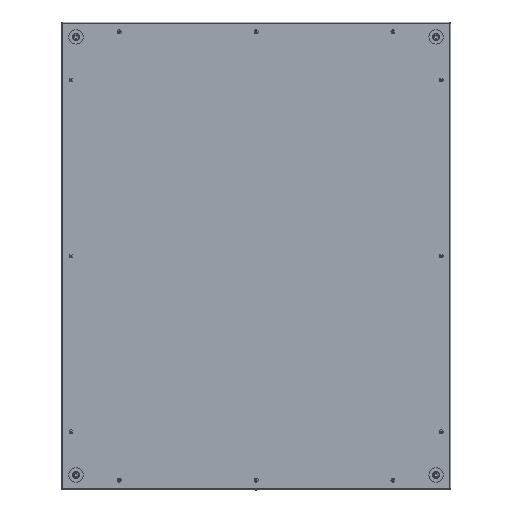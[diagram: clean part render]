
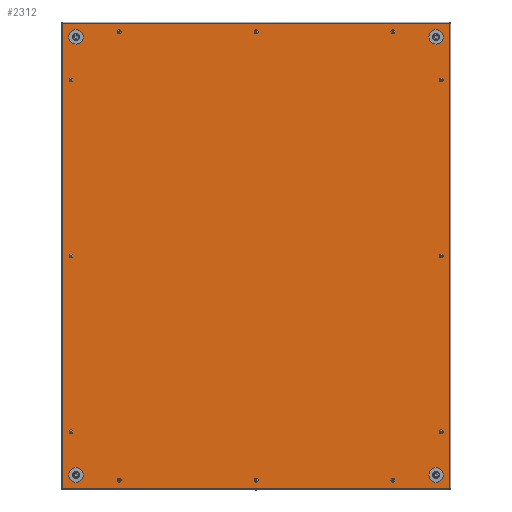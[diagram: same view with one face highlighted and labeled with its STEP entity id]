
A CAD part, top view. The second image highlights one B-rep face of the part: STEP entity #2312.
In plain terms, the highlighted planar face has unit normal (0, 0, 1).
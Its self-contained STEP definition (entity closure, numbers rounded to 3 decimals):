
#2312=ADVANCED_FACE('',(#3389,#3391,#3393,#3395,#3397,#3399,#3401,#3403,#3405,#3407,
#3409,#3411,#3413,#3415,#3417,#3419,#3421),#3423,.T.);
#3389=FACE_BOUND('',#3390,.T.);
#3390=EDGE_LOOP('',(#8882,#8883,#8884,#8885));
#3391=FACE_BOUND('',#3392,.T.);
#3392=EDGE_LOOP('',(#8886));
#3393=FACE_BOUND('',#3394,.T.);
#3394=EDGE_LOOP('',(#8887));
#3395=FACE_BOUND('',#3396,.T.);
#3396=EDGE_LOOP('',(#8888));
#3397=FACE_BOUND('',#3398,.T.);
#3398=EDGE_LOOP('',(#8889));
#3399=FACE_BOUND('',#3400,.T.);
#3400=EDGE_LOOP('',(#8890));
#3401=FACE_BOUND('',#3402,.T.);
#3402=EDGE_LOOP('',(#8891));
#3403=FACE_BOUND('',#3404,.T.);
#3404=EDGE_LOOP('',(#8892));
#3405=FACE_BOUND('',#3406,.T.);
#3406=EDGE_LOOP('',(#8893));
#3407=FACE_BOUND('',#3408,.T.);
#3408=EDGE_LOOP('',(#8894));
#3409=FACE_BOUND('',#3410,.T.);
#3410=EDGE_LOOP('',(#8895));
#3411=FACE_BOUND('',#3412,.T.);
#3412=EDGE_LOOP('',(#8896));
#3413=FACE_BOUND('',#3414,.T.);
#3414=EDGE_LOOP('',(#8897));
#3415=FACE_BOUND('',#3416,.T.);
#3416=EDGE_LOOP('',(#8898));
#3417=FACE_BOUND('',#3418,.T.);
#3418=EDGE_LOOP('',(#8899));
#3419=FACE_BOUND('',#3420,.T.);
#3420=EDGE_LOOP('',(#8900));
#3421=FACE_BOUND('',#3422,.T.);
#3422=EDGE_LOOP('',(#8901));
#3423=PLANE('',#3424);
#3424=AXIS2_PLACEMENT_3D('',#3425,#3426,#3427);
#3425=CARTESIAN_POINT('',(0.,0.,1.5));
#3426=DIRECTION('',(0.,0.,1.));
#3427=DIRECTION('',(0.,1.,0.));
#8882=ORIENTED_EDGE('',*,*,#10599,.T.);
#8883=ORIENTED_EDGE('',*,*,#10600,.T.);
#8884=ORIENTED_EDGE('',*,*,#10601,.T.);
#8885=ORIENTED_EDGE('',*,*,#10602,.T.);
#8886=ORIENTED_EDGE('',*,*,#10578,.T.);
#8887=ORIENTED_EDGE('',*,*,#10577,.T.);
#8888=ORIENTED_EDGE('',*,*,#10576,.T.);
#8889=ORIENTED_EDGE('',*,*,#10575,.T.);
#8890=ORIENTED_EDGE('',*,*,#10574,.T.);
#8891=ORIENTED_EDGE('',*,*,#10573,.T.);
#8892=ORIENTED_EDGE('',*,*,#10572,.T.);
#8893=ORIENTED_EDGE('',*,*,#10571,.T.);
#8894=ORIENTED_EDGE('',*,*,#10566,.T.);
#8895=ORIENTED_EDGE('',*,*,#10567,.T.);
#8896=ORIENTED_EDGE('',*,*,#10568,.T.);
#8897=ORIENTED_EDGE('',*,*,#10569,.T.);
#8898=ORIENTED_EDGE('',*,*,#10565,.T.);
#8899=ORIENTED_EDGE('',*,*,#10564,.T.);
#8900=ORIENTED_EDGE('',*,*,#10563,.T.);
#8901=ORIENTED_EDGE('',*,*,#10562,.T.);
#10562=EDGE_CURVE('',#11608,#11608,#11609,.F.);
#10563=EDGE_CURVE('',#11610,#11610,#11611,.F.);
#10564=EDGE_CURVE('',#11612,#11612,#11613,.F.);
#10565=EDGE_CURVE('',#11614,#11614,#11615,.F.);
#10566=EDGE_CURVE('',#11616,#11616,#11617,.F.);
#10567=EDGE_CURVE('',#11618,#11618,#11619,.F.);
#10568=EDGE_CURVE('',#11620,#11620,#11621,.F.);
#10569=EDGE_CURVE('',#11622,#11622,#11623,.F.);
#10571=EDGE_CURVE('',#11626,#11626,#11627,.F.);
#10572=EDGE_CURVE('',#11628,#11628,#11629,.F.);
#10573=EDGE_CURVE('',#11630,#11630,#11631,.F.);
#10574=EDGE_CURVE('',#11632,#11632,#11633,.F.);
#10575=EDGE_CURVE('',#11634,#11634,#11635,.F.);
#10576=EDGE_CURVE('',#11636,#11636,#11637,.F.);
#10577=EDGE_CURVE('',#11638,#11638,#11639,.F.);
#10578=EDGE_CURVE('',#11640,#11640,#11641,.F.);
#10599=EDGE_CURVE('',#11678,#11679,#11680,.T.);
#10600=EDGE_CURVE('',#11679,#11681,#11682,.T.);
#10601=EDGE_CURVE('',#11681,#11683,#11684,.T.);
#10602=EDGE_CURVE('',#11683,#11678,#11685,.T.);
#11608=VERTEX_POINT('',#13536);
#11609=CIRCLE('',#13537,3.75);
#11610=VERTEX_POINT('',#13541);
#11611=CIRCLE('',#13542,3.75);
#11612=VERTEX_POINT('',#13546);
#11613=CIRCLE('',#13547,3.75);
#11614=VERTEX_POINT('',#13551);
#11615=CIRCLE('',#13552,3.75);
#11616=VERTEX_POINT('',#13556);
#11617=CIRCLE('',#13557,7.);
#11618=VERTEX_POINT('',#13561);
#11619=CIRCLE('',#13562,7.);
#11620=VERTEX_POINT('',#13566);
#11621=CIRCLE('',#13567,7.);
#11622=VERTEX_POINT('',#13571);
#11623=CIRCLE('',#13572,7.);
#11626=VERTEX_POINT('',#13581);
#11627=CIRCLE('',#13582,3.75);
#11628=VERTEX_POINT('',#13586);
#11629=CIRCLE('',#13587,3.75);
#11630=VERTEX_POINT('',#13591);
#11631=CIRCLE('',#13592,3.75);
#11632=VERTEX_POINT('',#13596);
#11633=CIRCLE('',#13597,3.75);
#11634=VERTEX_POINT('',#13601);
#11635=CIRCLE('',#13602,3.75);
#11636=VERTEX_POINT('',#13606);
#11637=CIRCLE('',#13607,3.75);
#11638=VERTEX_POINT('',#13611);
#11639=CIRCLE('',#13612,3.75);
#11640=VERTEX_POINT('',#13616);
#11641=CIRCLE('',#13617,3.75);
#11678=VERTEX_POINT('',#13833);
#11679=VERTEX_POINT('',#13834);
#11680=LINE('',#13835,#13836);
#11681=VERTEX_POINT('',#13838);
#11682=LINE('',#13839,#13840);
#11683=VERTEX_POINT('',#13842);
#11684=LINE('',#13843,#13844);
#11685=LINE('',#13846,#13847);
#13536=CARTESIAN_POINT('',(0.,-569.75,1.5));
#13537=AXIS2_PLACEMENT_3D('',#13538,#13539,#13540);
#13538=CARTESIAN_POINT('',(0.,-573.5,1.5));
#13539=DIRECTION('',(0.,0.,1.));
#13540=DIRECTION('',(0.,1.,0.));
#13541=CARTESIAN_POINT('',(0.,577.25,1.5));
#13542=AXIS2_PLACEMENT_3D('',#13543,#13544,#13545);
#13543=CARTESIAN_POINT('',(0.,573.5,1.5));
#13544=DIRECTION('',(0.,0.,1.));
#13545=DIRECTION('',(0.,1.,0.));
#13546=CARTESIAN_POINT('',(473.5,3.75,1.5));
#13547=AXIS2_PLACEMENT_3D('',#13548,#13549,#13550);
#13548=CARTESIAN_POINT('',(473.5,0.,1.5));
#13549=DIRECTION('',(0.,0.,1.));
#13550=DIRECTION('',(0.,1.,0.));
#13551=CARTESIAN_POINT('',(-473.5,3.75,1.5));
#13552=AXIS2_PLACEMENT_3D('',#13553,#13554,#13555);
#13553=CARTESIAN_POINT('',(-473.5,0.,1.5));
#13554=DIRECTION('',(0.,0.,1.));
#13555=DIRECTION('',(0.,1.,0.));
#13556=CARTESIAN_POINT('',(460.5,-553.5,1.5));
#13557=AXIS2_PLACEMENT_3D('',#13558,#13559,#13560);
#13558=CARTESIAN_POINT('',(460.5,-560.5,1.5));
#13559=DIRECTION('',(0.,0.,1.));
#13560=DIRECTION('',(0.,1.,0.));
#13561=CARTESIAN_POINT('',(-460.5,567.5,1.5));
#13562=AXIS2_PLACEMENT_3D('',#13563,#13564,#13565);
#13563=CARTESIAN_POINT('',(-460.5,560.5,1.5));
#13564=DIRECTION('',(0.,0.,1.));
#13565=DIRECTION('',(0.,1.,0.));
#13566=CARTESIAN_POINT('',(-460.5,-553.5,1.5));
#13567=AXIS2_PLACEMENT_3D('',#13568,#13569,#13570);
#13568=CARTESIAN_POINT('',(-460.5,-560.5,1.5));
#13569=DIRECTION('',(0.,0.,1.));
#13570=DIRECTION('',(0.,1.,0.));
#13571=CARTESIAN_POINT('',(460.5,567.5,1.5));
#13572=AXIS2_PLACEMENT_3D('',#13573,#13574,#13575);
#13573=CARTESIAN_POINT('',(460.5,560.5,1.5));
#13574=DIRECTION('',(0.,0.,1.));
#13575=DIRECTION('',(0.,1.,0.));
#13581=CARTESIAN_POINT('',(-473.5,-446.25,1.5));
#13582=AXIS2_PLACEMENT_3D('',#13583,#13584,#13585);
#13583=CARTESIAN_POINT('',(-473.5,-450.,1.5));
#13584=DIRECTION('',(0.,0.,1.));
#13585=DIRECTION('',(0.,1.,0.));
#13586=CARTESIAN_POINT('',(473.5,453.75,1.5));
#13587=AXIS2_PLACEMENT_3D('',#13588,#13589,#13590);
#13588=CARTESIAN_POINT('',(473.5,450.,1.5));
#13589=DIRECTION('',(0.,0.,1.));
#13590=DIRECTION('',(0.,1.,0.));
#13591=CARTESIAN_POINT('',(473.5,-446.25,1.5));
#13592=AXIS2_PLACEMENT_3D('',#13593,#13594,#13595);
#13593=CARTESIAN_POINT('',(473.5,-450.,1.5));
#13594=DIRECTION('',(0.,0.,1.));
#13595=DIRECTION('',(0.,1.,0.));
#13596=CARTESIAN_POINT('',(-473.5,453.75,1.5));
#13597=AXIS2_PLACEMENT_3D('',#13598,#13599,#13600);
#13598=CARTESIAN_POINT('',(-473.5,450.,1.5));
#13599=DIRECTION('',(0.,0.,1.));
#13600=DIRECTION('',(0.,1.,0.));
#13601=CARTESIAN_POINT('',(-350.,-569.75,1.5));
#13602=AXIS2_PLACEMENT_3D('',#13603,#13604,#13605);
#13603=CARTESIAN_POINT('',(-350.,-573.5,1.5));
#13604=DIRECTION('',(0.,0.,1.));
#13605=DIRECTION('',(0.,1.,0.));
#13606=CARTESIAN_POINT('',(350.,577.25,1.5));
#13607=AXIS2_PLACEMENT_3D('',#13608,#13609,#13610);
#13608=CARTESIAN_POINT('',(350.,573.5,1.5));
#13609=DIRECTION('',(0.,0.,1.));
#13610=DIRECTION('',(0.,1.,0.));
#13611=CARTESIAN_POINT('',(-350.,577.25,1.5));
#13612=AXIS2_PLACEMENT_3D('',#13613,#13614,#13615);
#13613=CARTESIAN_POINT('',(-350.,573.5,1.5));
#13614=DIRECTION('',(0.,0.,1.));
#13615=DIRECTION('',(0.,1.,0.));
#13616=CARTESIAN_POINT('',(350.,-569.75,1.5));
#13617=AXIS2_PLACEMENT_3D('',#13618,#13619,#13620);
#13618=CARTESIAN_POINT('',(350.,-573.5,1.5));
#13619=DIRECTION('',(0.,0.,1.));
#13620=DIRECTION('',(0.,1.,0.));
#13833=CARTESIAN_POINT('',(495.2,595.2,1.5));
#13834=CARTESIAN_POINT('',(-495.2,595.2,1.5));
#13835=CARTESIAN_POINT('',(495.2,595.2,1.5));
#13836=VECTOR('',#13837,1.);
#13837=DIRECTION('',(-1.,0.,0.));
#13838=CARTESIAN_POINT('',(-495.2,-595.2,1.5));
#13839=CARTESIAN_POINT('',(-495.2,595.2,1.5));
#13840=VECTOR('',#13841,1.);
#13841=DIRECTION('',(0.,-1.,0.));
#13842=CARTESIAN_POINT('',(495.2,-595.2,1.5));
#13843=CARTESIAN_POINT('',(-495.2,-595.2,1.5));
#13844=VECTOR('',#13845,1.);
#13845=DIRECTION('',(1.,0.,0.));
#13846=CARTESIAN_POINT('',(495.2,-595.2,1.5));
#13847=VECTOR('',#13848,1.);
#13848=DIRECTION('',(0.,1.,0.));
